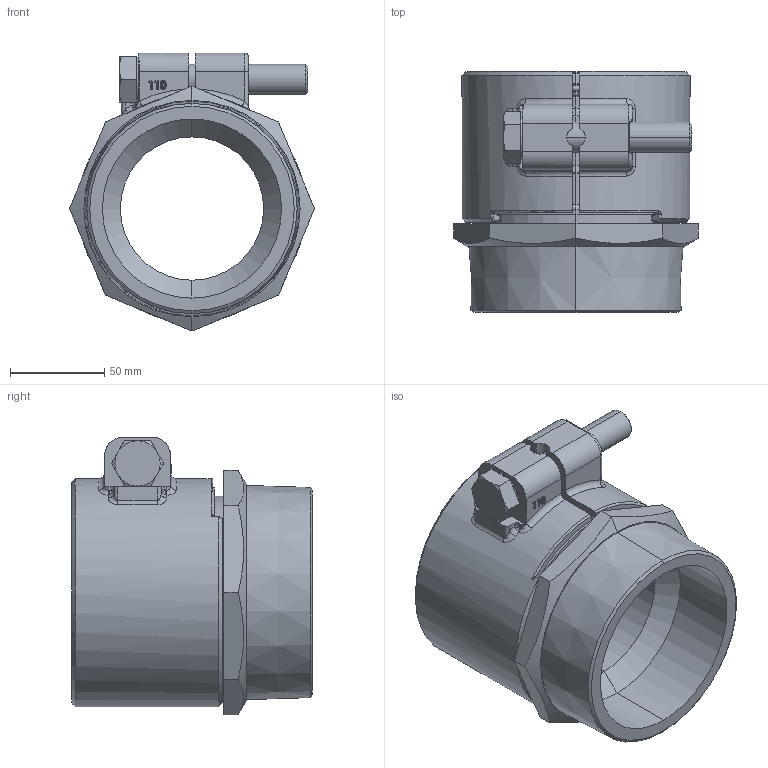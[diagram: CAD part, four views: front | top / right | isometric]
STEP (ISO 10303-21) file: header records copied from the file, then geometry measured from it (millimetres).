
FILE_DESCRIPTION (( 'STEP AP214' ), '1' );
FILE_NAME ('KP_C14-110M.STEP', '2014-01-20T11:53:41', ( 'robinj' ), ( 'Microsoft' ), 'SwSTEP 2.0', 'SolidWorks 2014', '' );
FILE_SCHEMA (( 'AUTOMOTIVE_DESIGN' ));
Length unit declared in the file: millimetre
Products named in the file (1): KP_C14-110M
Bounding box: 129.89 x 127.75 x 147.44 mm (x, y, z)
Volume: 516470.4 mm3; surface area: 169432.6 mm2
Topology: 2 solids, 2 shells, 389 faces, 922 edges, 525 vertices
Faces by surface type: cylinder 135, plane 92, torus 57, bspline 48, cone 35, sphere 22
Entity records: 14305 total; most frequent: CARTESIAN_POINT 5287, DIRECTION 1872, ORIENTED_EDGE 1794, EDGE_CURVE 897, AXIS2_PLACEMENT_3D 772, VERTEX_POINT 525, CIRCLE 430, EDGE_LOOP 406
